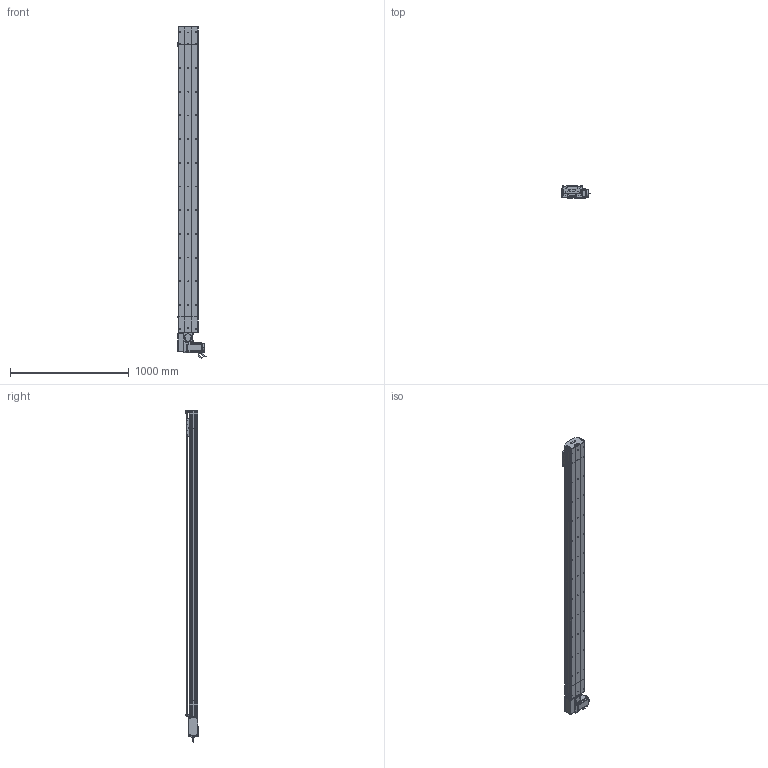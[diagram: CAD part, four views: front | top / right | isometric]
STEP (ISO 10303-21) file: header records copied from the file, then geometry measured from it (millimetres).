
FILE_DESCRIPTION (( 'STEP AP214' ), '1' );
FILE_NAME ('D17 TBH RH S2300.STEP', '2010-06-30T08:36:35', ( 'Christophe Gaillard' ), ( 'SGA' ), 'SwSTEP 2.0', 'SolidWorks 2010', '' );
FILE_SCHEMA (( 'AUTOMOTIVE_DESIGN' ));
Length unit declared in the file: millimetre
Products named in the file (40): Vis M5 L16-2_Default; Conecteur_Default; Conecteur2_Default; codeur 90BLDC125-640; corpl head D17 _Default; couroie head D17_Default; poulie head_Default; vis M5 L5_Default; corps 90BLDC125A-640; avant 90BLDC125A-640; Moteur motionking 90BLDC125A-640; cache D17_Default; Arbre+rail head D17B; plaque de  bout head D17B RH_Default; couvercle D17B head_Default; vis M5 L70_Default; Plaque racord D17_Default; vis M5 L12_Default; vis M5 L16_Default; guide D17; Couroie+ rail D17 Course 2300 ; corp D17B 2300_Default; course 2300 D17B_Default; couvercle D17B course L2300_Default; Head RH D17B_Default; tete d''axe poulie D17B; Rail D17B; plaque de  bout tail D17B_Default; poulie tail_Default; D17 TBH RH S2300; Couroie tail D17B_Default; couvercle D17B_Default; vis M5 L8 90°_Default; vis M5 L25_Default; chariot D17S_Default; corp tail D17B+100_Default; Tail D17B+100_Default; cache arbre D17_Default; Renvoi RH_Default; Chariot D17
Assembly tree (70 placements, depth 4):
  D17 TBH RH S2300
    chariot D17S_Default
      vis M5 L12_Default  x4
      guide D17  x2
      Chariot D17
    Tail D17B+100_Default
      vis M5 L12_Default  x4
      plaque de  bout tail D17B_Default
      vis M5 L25_Default  x2
      corp tail D17B+100_Default
      couvercle D17B_Default
      tete d''axe poulie D17B
      vis M5 L8 90°_Default  x2
      Rail D17B
      Couroie tail D17B_Default
      poulie tail_Default
    Head RH D17B_Default
      Vis M5 L16-2_Default  x4
      vis M5 L70_Default  x4
      vis M5 L5_Default  x4
      vis M5 L16_Default  x2
      cache arbre D17_Default
      Moteur motionking 90BLDC125A-640
        corps 90BLDC125A-640
        codeur 90BLDC125-640
        Conecteur2_Default
        avant 90BLDC125A-640
        Conecteur_Default
      plaque de  bout head D17B RH_Default
      Plaque racord D17_Default
      corpl head D17 _Default
      vis M5 L12_Default  x8
      cache D17_Default  x2
      couroie head D17_Default
      poulie head_Default
      couvercle D17B head_Default
      Renvoi RH_Default
      Arbre+rail head D17B
      vis M5 L25_Default  x2
    course 2300 D17B_Default
      couvercle D17B course L2300_Default
      Couroie+ rail D17 Course 2300 
      corp D17B 2300_Default
Bounding box: 245.2 x 105.65 x 2800.95 mm (x, y, z)
Volume: 15839448.9 mm3; surface area: 4573230.7 mm2
Topology: 94 solids, 94 shells, 2741 faces, 6971 edges, 4486 vertices
Faces by surface type: plane 1611, cylinder 817, bspline 136, cone 88, torus 85, sphere 4
Entity records: 86482 total; most frequent: CARTESIAN_POINT 25415, ORIENTED_EDGE 10714, DIRECTION 10150, EDGE_CURVE 5357, VECTOR 3520, LINE 3520, VERTEX_POINT 3510, AXIS2_PLACEMENT_3D 3315
